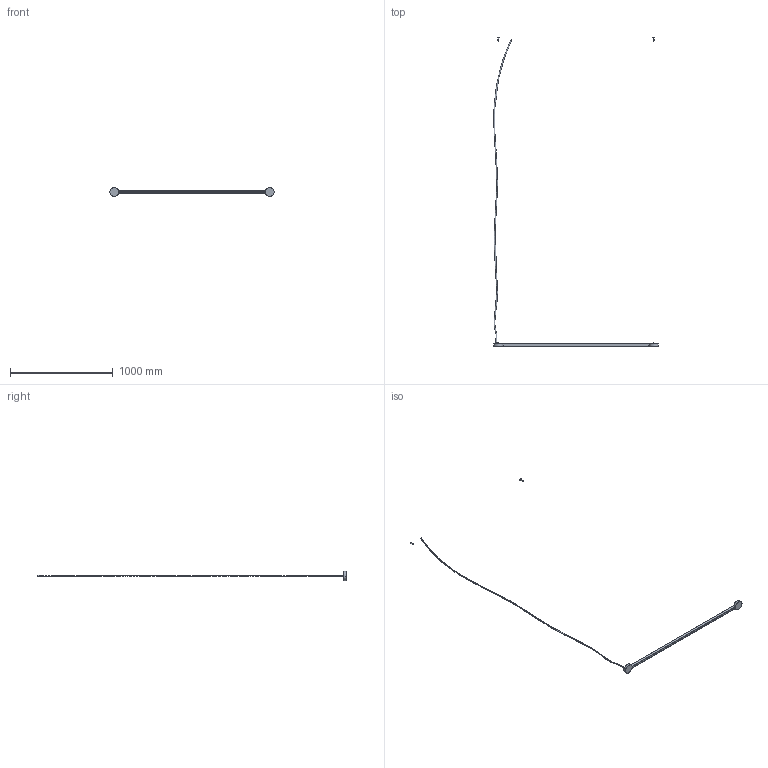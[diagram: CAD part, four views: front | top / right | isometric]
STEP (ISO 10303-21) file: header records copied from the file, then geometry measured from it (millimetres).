
FILE_DESCRIPTION (( 'STEP AP203' ), '1' );
FILE_NAME ('SPPOS0114XXXXXX-PER 3D.STEP', '2026-07-07T18:05:14', ( '' ), ( '' ), 'SwSTEP 2.0', 'SolidWorks 2026', '' );
FILE_SCHEMA (( 'CONFIG_CONTROL_DESIGN' ));
Length unit declared in the file: millimetre
Products named in the file (1): SPPOS0114XXXXXX-PER 3D
Bounding box: 1604.5 x 3012.21 x 89.5 mm (x, y, z)
Surface area: 263252.9 mm2 (no closed solid volume)
Topology: 0 solids, 33 shells, 81 faces, 973 edges, 899 vertices
Faces by surface type: cylinder 39, plane 33, cone 7, bspline 2
Entity records: 11135 total; most frequent: CARTESIAN_POINT 4376, DIRECTION 1275, ORIENTED_EDGE 1063, EDGE_CURVE 973, VERTEX_POINT 899, VECTOR 531, LINE 531, AXIS2_PLACEMENT_3D 372
